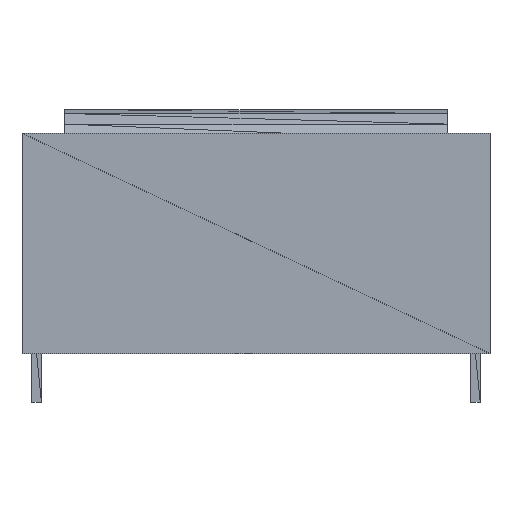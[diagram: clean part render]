
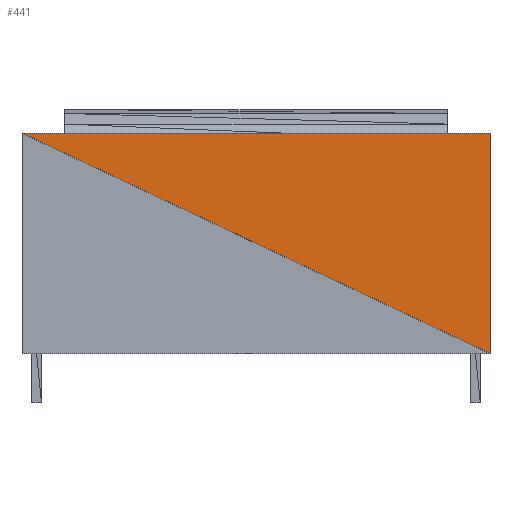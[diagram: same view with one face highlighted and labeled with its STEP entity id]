
A CAD part, front view. The second image highlights one B-rep face of the part: STEP entity #441.
In plain terms, the highlighted planar face has unit normal (0, -1, 0).
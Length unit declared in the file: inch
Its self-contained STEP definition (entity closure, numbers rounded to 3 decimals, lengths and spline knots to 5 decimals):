
#66=CARTESIAN_POINT('',(-0.48,-0.18509,0.45196));
#67=VERTEX_POINT('',#66);
#283=CARTESIAN_POINT('',(0.48,-0.185,-0.00004));
#284=VERTEX_POINT('',#283);
#291=CARTESIAN_POINT('',(0.48,-0.185,-0.00004));
#292=DIRECTION('',(-0.905,0.,0.426));
#293=VECTOR('',#292,1.06109);
#294=LINE('',#291,#293);
#295=EDGE_CURVE('',#284,#67,#294,.T.);
#305=CARTESIAN_POINT('',(0.48,-0.18509,0.45196));
#306=VERTEX_POINT('',#305);
#314=CARTESIAN_POINT('',(-0.48,-0.18509,0.45196));
#315=DIRECTION('',(1.,0.,-0.));
#316=VECTOR('',#315,0.96);
#317=LINE('',#314,#316);
#318=EDGE_CURVE('',#67,#306,#317,.T.);
#426=CARTESIAN_POINT('',(-0.48,-0.18509,0.45196));
#427=DIRECTION('',(0.,1.,0.));
#428=DIRECTION('',(1.,0.,0.));
#429=AXIS2_PLACEMENT_3D('',#426,#427,#428);
#430=PLANE('',#429);
#431=ORIENTED_EDGE('',*,*,#295,.F.);
#432=CARTESIAN_POINT('',(0.48,-0.185,-0.00004));
#433=DIRECTION('',(0.,0.,1.));
#434=VECTOR('',#433,0.452);
#435=LINE('',#432,#434);
#436=EDGE_CURVE('',#284,#306,#435,.T.);
#437=ORIENTED_EDGE('',*,*,#436,.T.);
#438=ORIENTED_EDGE('',*,*,#318,.F.);
#439=EDGE_LOOP('',(#431,#437,#438));
#440=FACE_BOUND('',#439,.T.);
#441=ADVANCED_FACE('',(#440),#430,.F.);
